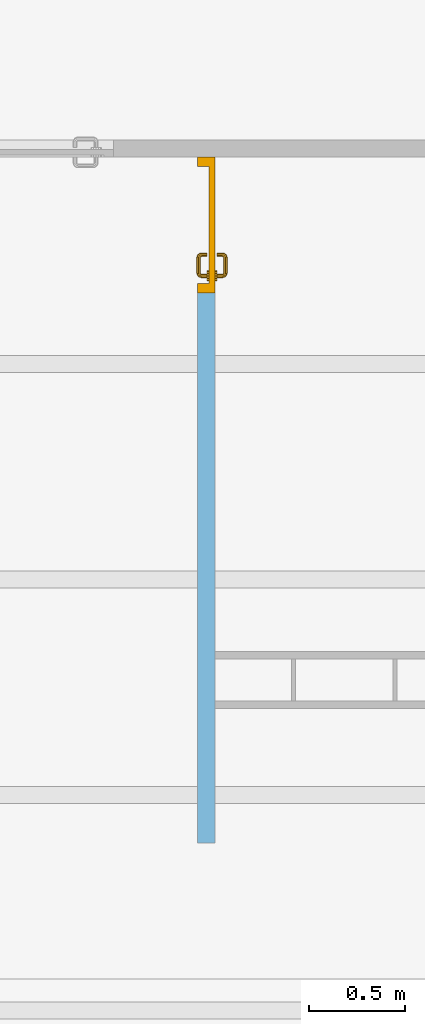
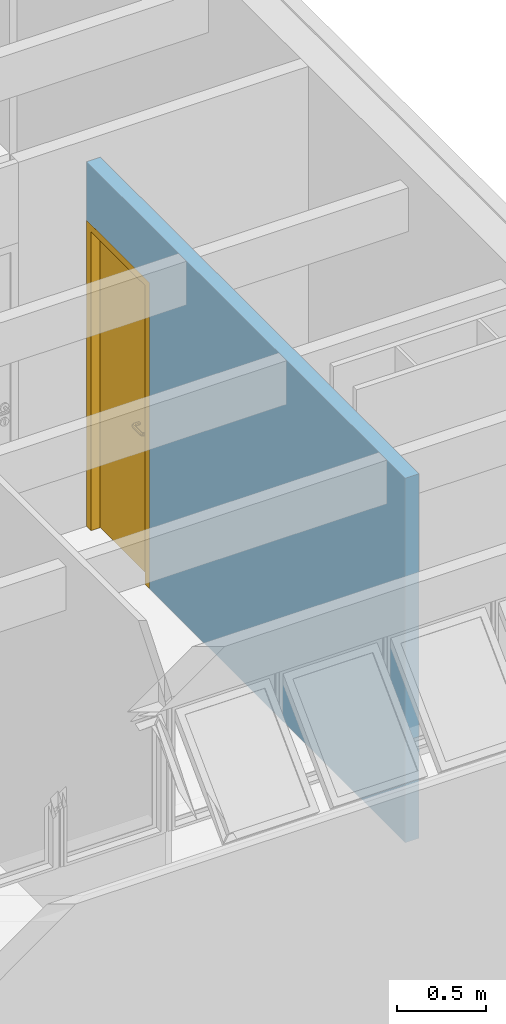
# One storey, part 14 of 22: 1 door, 1 opening, plus 1 element that does not belong to this part.
"""IFC2X3 building model written with IfcOpenShell, lengths in millimetres."""

from ifc_helpers import new_model, si_unit, direction, frame, frame_2d, origin_with_axes, place, context, subcontext, project, spatial, polyline, rectangle, outline, extrude, open_shell, faceted_brep, surface_model, source, transform, mapped, material, layer, layer_set, layer_usage, type_object, type_shapes, element, fill, save


model = new_model("IFC2X3")

# Units and contexts
model_context = context("Model", 3, precision=1e-05, world=origin_with_axes(), true_north=direction((0.0, 1.0)))
body_context = subcontext(model_context, "Body", "Model", "MODEL_VIEW")
ifc_project = project(units=[si_unit("LENGTHUNIT", "METRE", prefix="MILLI"), si_unit("AREAUNIT", "SQUARE_METRE"), si_unit("VOLUMEUNIT", "CUBIC_METRE"), si_unit("PLANEANGLEUNIT", "RADIAN"), si_unit("TIMEUNIT", "SECOND"), si_unit("MASSUNIT", "GRAM")], contexts=[model_context])

# Site, building, storey
site_placement = place(None, origin_with_axes())
site = spatial("IfcSite", under=ifc_project, at=site_placement, Name="Site", CompositionType="ELEMENT")
building_placement = place(site_placement, origin_with_axes())
building = spatial("IfcBuilding", under=site, at=building_placement, Name="Construção", CompositionType="COMPLEX")
storey_placement = place(building_placement, frame((0.0, 0.0, 2650.0), z_axis=(0.0, 0.0, 1.0), x_axis=(1.0, 0.0, 0.0)))
storey = spatial("IfcBuildingStorey", under=building, at=storey_placement, Name="Segundo Pavimento", CompositionType="COMPLEX", Elevation=2650.0)

# Wall, opening, door
ifc_material = material(Name="GENÉRICO - VEDAÇÃO EXTERNA")
ifc_layer = layer(ifc_material, 90.0)
ifc_layer_set = layer_set([ifc_layer], Name="GENÉRICO - VEDAÇÃO EXTERNA 90")
ifc_layer_usage = layer_usage(ifc_layer_set, "AXIS2", "POSITIVE", 0.0)
wall_type = type_object("IfcWallType", Name="GENÉRICO - VEDAÇÃO EXTERNA 90", PredefinedType="STANDARD", material=ifc_layer_set)
wall_placement = place(storey_placement, frame((13040.0, 22394.7804333, 0.0), z_axis=(0.0, 0.0, 1.0), x_axis=(0.0, -1.0, 0.0)))
wall = element("IfcWallStandardCase", 1, at=wall_placement, inside=storey, type_object=wall_type, material=ifc_layer_usage, Name="APTO8-PAREDE-012", context=body_context, shape_type="SweptSolid", body=[
    extrude(rectangle(XDim=3580.0, YDim=90.0, at=frame_2d((0.0, 0.0), x_axis=(-1.0, 0.0))), frame((1790.0, 45.0, 0.0), z_axis=(0.0, 0.0, 1.0), x_axis=(1.0, 0.0, 0.0)), (0.0, 0.0, 1.0), 2500.0),
])
opening_placement = place(wall_placement, frame((710.0, 90.0, 0.0), z_axis=(0.0, 0.0, 1.0), x_axis=(-1.0, 0.0, 0.0)))
opening = element("IfcOpeningElement", 2, at=opening_placement, cuts=wall, ObjectType="Opening", context=body_context, shape_type="SweptSolid", body=[
    extrude(outline(polyline([(355.0, 1050.0), (355.0, -1050.0), (-355.0, -1050.0), (-355.0, 1050.0), (355.0, 1050.0)])), frame((355.0, 0.0, 1050.0), z_axis=(0.0, 1.0, 0.0), x_axis=(1.0, 0.0, 0.0)), (0.0, 0.0, 1.0), 270.0),
])
door_style = type_object("IfcDoorStyle", Name="Porta 25", ConstructionType="NOTDEFINED", OperationType="SINGLE_SWING_LEFT", ParameterTakesPrecedence=False, Sizeable=False)
shared_shape_1 = source(origin_with_axes(), body_context, "Body", "SolidModel", [
    extrude(outline(polyline([(10.0, -10.0), (10.0, -40.0), (-30.0, -40.0), (-30.0, 50.0), (20.0, 50.0), (20.0, -10.0), (10.0, -10.0)])), frame((30.0, 0.0, -40.0), z_axis=(0.0, 1.0, 0.0), x_axis=(1.0, 0.0, 0.0)), (0.0, 0.0, 1.0), 2050.0),
])
shared_shape_2 = source(origin_with_axes(), body_context, "Body", "SolidModel", [
    extrude(outline(polyline([(-10.0, -10.0), (-20.0, -10.0), (-20.0, 50.0), (30.0, 50.0), (30.0, -40.0), (-10.0, -40.0), (-10.0, -10.0)])), frame((680.0, 0.0, -40.0), z_axis=(0.0, 1.0, 0.0), x_axis=(1.0, 0.0, 0.0)), (0.0, 0.0, 1.0), 2050.0),
])
shared_shape_3 = source(origin_with_axes(), body_context, "Body", "SolidModel", [
    faceted_brep([(670.0, 2050.0, -30.0), (670.0, 2060.0, -30.0), (39.99999999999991, 2060.0, -29.99999999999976), (39.99999999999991, 2050.0, -29.99999999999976), (710.0, 2050.0, -90.0), (0.0, 2050.0, -90.0), (0.0, 2100.0, -90.0), (710.0, 2100.0, -90.0), (39.99999999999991, 2050.0, 0.0), (39.99999999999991, 2060.0, 0.0), (0.0, 2050.0, 0.0), (0.0, 2100.0, 0.0), (710.0, 2100.0, 0.0), (710.0, 2050.0, 0.0), (670.0, 2050.0, 0.0), (670.0, 2060.0, 0.0)], [[[0, 1, 2, 3]], [[4, 5, 6, 7]], [[8, 3, 2, 9]], [[10, 11, 6, 5]], [[11, 12, 7, 6]], [[12, 13, 4, 7]], [[0, 3, 8, 10, 5, 4, 13, 14]], [[15, 1, 0, 14]], [[9, 2, 1, 15]], [[9, 15, 14, 13, 12, 11, 10, 8]]]),
])
shared_shape_4 = source(origin_with_axes(), body_context, "Body", "SolidModel", [
    extrude(outline(polyline([(0.0, 27.00000000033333), (13.49999999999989, 23.38268590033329), (23.38268590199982, 13.50000000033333), (26.99999999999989, 3.333298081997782e-10), (23.38268590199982, -13.49999999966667), (13.49999999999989, -23.38268590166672), (0.0, -26.99999999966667), (-13.50000000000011, -23.38268590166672), (-23.38268590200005, -13.49999999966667), (-27.0, 3.333298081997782e-10), (-23.38268590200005, 13.50000000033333), (-13.50000000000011, 23.38268590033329), (0.0, 27.00000000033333)])), frame((90.0, 999.9999999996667, -40.0), z_axis=(0.0, 0.0, 1.0), x_axis=(1.0, 0.0, 0.0)), (0.0, 0.0, 1.0), 10.0),
])
shared_shape_5 = source(origin_with_axes(), body_context, "Body", "SolidModel", [
    faceted_brep([(67.48333950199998, 913.0, -39.0), (67.48333950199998, 913.0, -30.0), (64.0, 900.0, -30.0), (64.0, 900.0, -39.0), (67.48333950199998, 887.0, -30.0), (67.48333950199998, 887.0, -39.0), (63.0, 900.0, -30.0), (63.0, 900.0, -40.0), (66.61731409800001, 886.5, -40.0), (66.61731409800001, 886.5, -30.0), (66.61731409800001, 913.5, -30.0), (66.61731409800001, 913.5, -40.0), (77.0, 877.483339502, -30.0), (77.0, 877.483339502, -39.0), (90.0, 874.0, -30.0), (90.0, 874.0, -39.0), (76.5, 876.617314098, -40.0), (76.5, 876.617314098, -30.0), (77.0, 922.516660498, -39.0), (77.0, 922.516660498, -30.0), (103.0, 877.483339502, -39.0), (103.0, 877.483339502, -30.0), (112.516660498, 887.0, -30.0), (112.516660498, 887.0, -39.0), (90.0, 873.0, -40.0), (90.0, 873.0, -30.0), (112.516660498, 913.0, -30.0), (116.0, 900.0, -30.0), (90.0, 926.0, -30.0), (103.0, 922.516660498, -30.0), (117.0, 900.0, -30.0), (113.382685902, 913.5, -30.0), (103.5, 923.382685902, -30.0), (90.0, 927.0, -30.0), (76.5, 923.382685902, -30.0), (103.5, 876.617314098, -30.0), (113.382685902, 886.5, -30.0), (116.0, 900.0, -39.0), (112.516660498, 913.0, -39.0), (113.382685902, 886.5, -40.0), (117.0, 900.0, -40.0), (103.5, 876.617314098, -40.0), (82.53216922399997, 909.692280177, -40.0), (82.53216922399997, 909.692280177, -39.0), (85.0, 904.4, -39.0), (85.0, 904.4, -40.0), (85.0, 887.5, -39.0), (85.0, 887.5, -40.0), (86.46446609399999, 883.964466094, -40.0), (86.46446609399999, 883.964466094, -39.0), (90.0, 882.5, -40.0), (90.0, 882.5, -39.0), (76.5, 923.382685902, -40.0), (90.0, 926.0, -39.0), (90.0, 927.0, -40.0), (103.0, 922.516660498, -39.0), (113.382685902, 913.5, -40.0), (103.5, 923.382685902, -40.0), (95.0, 887.5, -40.0), (93.53553390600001, 883.964466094, -40.0), (93.53553390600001, 883.964466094, -39.0), (95.0, 887.5, -39.0), (84.62481768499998, 915.143815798, -40.0), (84.62481768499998, 915.143815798, -39.0), (83.279754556, 911.639806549, -39.0), (83.279754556, 911.639806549, -40.0), (90.0, 917.425445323, -40.0), (90.0, 917.425445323, -39.0), (95.37518231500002, 915.143815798, -40.0), (95.37518231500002, 915.143815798, -39.0), (96.720245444, 911.639806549, -39.0), (97.46783077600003, 909.692280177, -39.0), (95.0, 904.4, -39.0), (95.0, 904.4, -40.0), (97.46783077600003, 909.692280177, -40.0), (96.720245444, 911.639806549, -40.0)], [[[0, 1, 2, 3]], [[3, 2, 4, 5]], [[6, 7, 8, 9]], [[10, 11, 7, 6]], [[5, 4, 12, 13]], [[13, 12, 14, 15]], [[9, 8, 16, 17]], [[18, 19, 1, 0]], [[20, 21, 22, 23]], [[17, 16, 24, 25]], [[26, 27, 22, 21, 14, 12, 4, 2, 1, 19, 28, 29], [30, 31, 32, 33, 34, 10, 6, 9, 17, 25, 35, 36]], [[15, 14, 21, 20]], [[37, 27, 26, 38]], [[36, 39, 40, 30]], [[25, 24, 41, 35]], [[35, 41, 39, 36]], [[23, 22, 27, 37]], [[42, 43, 44, 45]], [[44, 46, 47, 45]], [[48, 47, 46, 49]], [[50, 48, 49, 51]], [[34, 52, 11, 10]], [[53, 28, 19, 18]], [[33, 54, 52, 34]], [[55, 29, 28, 53]], [[38, 26, 29, 55]], [[31, 56, 57, 32]], [[58, 59, 60, 61]], [[59, 50, 51, 60]], [[32, 57, 54, 33]], [[30, 40, 56, 31]], [[62, 63, 64, 43, 42, 65]], [[66, 67, 63, 62]], [[68, 69, 67, 66]], [[55, 53, 18, 0, 3, 5, 13, 15, 20, 23, 37, 38], [69, 70, 71, 72, 61, 60, 51, 49, 46, 44, 43, 64, 63, 67]], [[73, 72, 71, 74]], [[73, 58, 61, 72]], [[74, 71, 70, 69, 68, 75]], [[57, 56, 40, 39, 41, 24, 16, 8, 7, 11, 52, 54], [74, 75, 68, 66, 62, 65, 42, 45, 47, 48, 50, 59, 58, 73]]], outer=[[True], [True], [True], [True], [True], [True], [True], [True], [True], [True], [False, True], [True], [True], [True], [True], [True], [True], [True], [True], [True], [True], [True], [True], [True], [True], [True], [True], [True], [True], [True], [True], [True], [True], [True], [True, False], [True], [True], [True], [True, False]]),
])
shared_shape_6 = source(origin_with_axes(), body_context, "Body", "SurfaceModel", [
    surface_model("IfcShellBasedSurfaceModel", [(198.858192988, 990.0, -75.74025148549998), (200.0, 990.0, -70.0), (192.928932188, 992.928932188, -69.303560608), (192.197392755, 992.928932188, -72.9812576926), (198.858192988, 1010.0, -75.74025148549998), (200.0, 1010.0, -70.0), (207.071067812, 1007.07106781, -70.696439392), (205.518993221, 1007.07106781, -78.49924527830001), (200.0, 990.0, -40.0), (192.928932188, 992.928932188, -40.0), (190.0, 1000.0, -40.0), (190.0, 1000.0, -69.0150859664), (192.928932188, 1007.07106781, -40.0), (192.928932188, 1007.07106781, -69.303560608), (200.0, 1010.0, -40.0), (207.071067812, 1007.07106781, -40.0), (207.071067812, 992.928932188, -70.696439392), (207.071067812, 992.928932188, -40.0), (210.0, 1000.0, -40.0), (210.0, 1000.0, -70.9849140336), (205.518993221, 992.928932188, -78.49924527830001), (208.277987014, 1000.0, -79.6420579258), (189.438398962, 1000.0, -71.83844504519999), (192.197392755, 1007.07106781, -72.9812576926), (195.606601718, 990.0, -80.6066017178), (190.508645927, 992.928932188, -75.5086459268), (195.606601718, 1010.0, -80.6066017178), (200.704557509, 1007.07106781, -85.70455750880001), (190.508645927, 1007.07106781, -75.5086459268), (187.981257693, 1007.07106781, -77.19739275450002), (190.740251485, 1010.0, -83.8581929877), (188.397003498, 1000.0, -73.39700349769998), (186.838445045, 1000.0, -74.43839896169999), (184.015085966, 1000.0, -75.0), (184.303560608, 1007.07106781, -77.92893218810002), (187.981257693, 992.928932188, -77.19739275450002), (200.704557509, 992.928932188, -85.70455750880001), (202.816199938, 1000.0, -87.8161999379), (194.642057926, 1000.0, -93.2779870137), (193.499245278, 992.928932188, -90.51899322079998), (193.499245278, 1007.07106781, -90.51899322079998), (185.0, 1010.0, -85.0), (185.696439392, 1007.07106781, -92.07106781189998), (184.303560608, 992.928932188, -77.92893218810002), (190.740251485, 990.0, -83.8581929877), (105.984914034, 1000.0, -75.0), (105.696439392, 1007.07106781, -77.92893218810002), (105.0, 1010.0, -85.0), (103.161554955, 1000.0, -74.43839896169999), (102.018742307, 1007.07106781, -77.19739275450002), (105.696439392, 992.928932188, -77.92893218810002), (185.0, 990.0, -85.0), (102.018742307, 992.928932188, -77.19739275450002), (105.0, 990.0, -85.0), (185.696439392, 992.928932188, -92.07106781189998), (185.984914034, 1000.0, -95.0), (99.25974851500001, 990.0, -83.8581929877), (99.491354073, 1007.07106781, -75.5086459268), (99.25974851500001, 1010.0, -83.8581929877), (94.39339828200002, 1010.0, -80.6066017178), (96.50075472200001, 1007.07106781, -90.51899322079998), (89.29544249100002, 1007.07106781, -85.70455750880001), (104.303560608, 1007.07106781, -92.07106781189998), (101.602996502, 1000.0, -73.39700349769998), (104.303560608, 992.928932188, -92.07106781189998), (100.561601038, 1000.0, -71.83844504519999), (97.80260724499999, 1007.07106781, -72.9812576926), (99.491354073, 992.928932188, -75.5086459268), (104.015085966, 1000.0, -95.0), (97.80260724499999, 992.928932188, -72.9812576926), (94.39339828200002, 990.0, -80.6066017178), (96.50075472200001, 992.928932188, -90.51899322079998), (95.357942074, 1000.0, -93.2779870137), (91.14180701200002, 1010.0, -75.74025148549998), (100.0, 1000.0, -69.0150859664), (97.07106781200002, 1007.07106781, -69.303560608), (87.18380006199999, 1000.0, -87.8161999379), (97.07106781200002, 1007.07106781, -40.0), (90.0, 1010.0, -70.0), (90.0, 1010.0, -40.0), (100.0, 1000.0, -40.0), (97.07106781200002, 992.928932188, -69.303560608), (97.07106781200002, 992.928932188, -40.0), (90.0, 990.0, -40.0), (90.0, 990.0, -70.0), (91.14180701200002, 990.0, -75.74025148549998), (89.29544249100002, 992.928932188, -85.70455750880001), (84.48100677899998, 992.928932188, -78.49924527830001), (82.92893218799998, 992.928932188, -70.696439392), (81.72201298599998, 1000.0, -79.6420579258), (84.48100677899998, 1007.07106781, -78.49924527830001), (82.92893218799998, 1007.07106781, -70.696439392), (80.0, 1000.0, -70.9849140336), (82.92893218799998, 1007.07106781, -40.0), (82.92893218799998, 992.928932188, -40.0), (80.0, 1000.0, -40.0)], [open_shell([[[0, 1, 2, 3]], [[4, 5, 6, 7]], [[1, 8, 9, 2]], [[2, 9, 10, 11]], [[11, 10, 12, 13]], [[13, 12, 14, 5]], [[5, 14, 15, 6]], [[16, 17, 8, 1]], [[18, 15, 14, 12, 10, 9, 8, 17]], [[6, 15, 18, 19]], [[19, 18, 17, 16]], [[20, 16, 1, 0]], [[7, 6, 19, 21]], [[22, 11, 13, 23]], [[3, 2, 11, 22]], [[24, 0, 3, 25]], [[26, 4, 7, 27]], [[23, 13, 5, 4]], [[28, 23, 4, 26]], [[29, 28, 26, 30]], [[31, 22, 23, 28]], [[32, 31, 28, 29]], [[25, 3, 22, 31]], [[33, 32, 29, 34]], [[35, 25, 31, 32]], [[36, 20, 0, 24]], [[21, 19, 16, 20]], [[37, 21, 20, 36]], [[38, 37, 36, 39]], [[27, 7, 21, 37]], [[40, 27, 37, 38]], [[30, 26, 27, 40]], [[34, 29, 30, 41]], [[41, 30, 40, 42]], [[43, 35, 32, 33]], [[44, 24, 25, 35]], [[45, 33, 34, 46]], [[46, 34, 41, 47]], [[48, 45, 46, 49]], [[50, 43, 33, 45]], [[51, 44, 35, 43]], [[39, 36, 24, 44]], [[52, 50, 45, 48]], [[53, 51, 43, 50]], [[54, 39, 44, 51]], [[42, 40, 38, 55]], [[56, 53, 50, 52]], [[57, 49, 58, 59]], [[59, 58, 60, 61]], [[47, 41, 42, 62]], [[49, 46, 47, 58]], [[63, 48, 49, 57]], [[64, 54, 51, 53]], [[55, 38, 39, 54]], [[65, 63, 57, 66]], [[67, 52, 48, 63]], [[62, 42, 55, 68]], [[58, 47, 62, 60]], [[69, 67, 63, 65]], [[70, 56, 52, 67]], [[71, 64, 53, 56]], [[68, 55, 54, 64]], [[60, 62, 68, 72]], [[66, 57, 59, 73]], [[74, 65, 66, 75]], [[72, 68, 64, 71]], [[61, 60, 72, 76]], [[77, 75, 78, 79]], [[80, 74, 75, 77]], [[81, 69, 65, 74]], [[82, 81, 74, 80]], [[83, 84, 81, 82]], [[85, 70, 67, 69]], [[86, 71, 56, 70]], [[76, 72, 71, 86]], [[84, 85, 69, 81]], [[87, 86, 70, 85]], [[88, 87, 85, 84]], [[89, 76, 86, 87]], [[73, 59, 61, 90]], [[75, 66, 73, 78]], [[90, 61, 76, 89]], [[78, 73, 90, 91]], [[91, 90, 89, 92]], [[79, 78, 91, 93]], [[94, 88, 84, 83]], [[92, 89, 87, 88]], [[93, 91, 92, 95]], [[95, 92, 88, 94]]])]),
])
shared_shape_7 = source(origin_with_axes(), body_context, "Body", "SolidModel", [
    extrude(outline(polyline([(0.0, 27.00000000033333), (13.49999999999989, 23.38268590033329), (23.38268590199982, 13.50000000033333), (26.99999999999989, 3.333298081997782e-10), (23.38268590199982, -13.49999999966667), (13.49999999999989, -23.38268590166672), (0.0, -26.99999999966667), (-13.50000000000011, -23.38268590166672), (-23.38268590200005, -13.49999999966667), (-27.0, 3.333298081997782e-10), (-23.38268590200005, 13.50000000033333), (-13.50000000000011, 23.38268590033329), (0.0, 27.00000000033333)])), frame((90.0, 999.9999999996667, 0.0), z_axis=(0.0, 0.0, 1.0), x_axis=(1.0, 0.0, 0.0)), (0.0, 0.0, 1.0), 10.0),
])
shared_shape_8 = source(origin_with_axes(), body_context, "Body", "SolidModel", [
    faceted_brep([(86.46446609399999, 883.964466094, 9.0), (85.0, 887.5, 9.0), (85.0, 887.5, 10.0), (86.46446609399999, 883.964466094, 10.0), (90.0, 882.5, 9.0), (90.0, 882.5, 10.0), (76.5, 923.382685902, 10.0), (76.5, 923.382685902, 0.0), (66.61731409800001, 913.5, 0.0), (66.61731409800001, 913.5, 10.0), (90.0, 927.0, 10.0), (90.0, 927.0, 0.0), (76.5, 876.617314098, 10.0), (76.5, 876.617314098, 0.0), (90.0, 873.0, 0.0), (90.0, 873.0, 10.0), (103.5, 876.617314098, 0.0), (103.5, 876.617314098, 10.0), (113.382685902, 886.5, 0.0), (113.382685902, 886.5, 10.0), (117.0, 900.0, 0.0), (117.0, 900.0, 10.0), (113.382685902, 913.5, 0.0), (113.382685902, 913.5, 10.0), (103.5, 923.382685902, 10.0), (103.5, 923.382685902, 0.0), (66.61731409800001, 886.5, 10.0), (66.61731409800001, 886.5, 0.0), (63.0, 900.0, 10.0), (63.0, 900.0, 0.0), (64.0, 900.0, 9.0), (67.48333950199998, 887.0, 9.0), (67.48333950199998, 887.0, 0.0), (64.0, 900.0, 0.0), (67.48333950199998, 913.0, 9.0), (67.48333950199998, 913.0, 0.0), (77.0, 922.516660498, 9.0), (77.0, 922.516660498, 0.0), (116.0, 900.0, 0.0), (112.516660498, 913.0, 0.0), (103.0, 922.516660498, 0.0), (90.0, 926.0, 0.0), (77.0, 877.483339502, 0.0), (90.0, 874.0, 0.0), (103.0, 877.483339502, 0.0), (112.516660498, 887.0, 0.0), (77.0, 877.483339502, 9.0), (90.0, 874.0, 9.0), (103.0, 877.483339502, 9.0), (112.516660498, 887.0, 9.0), (90.0, 926.0, 9.0), (103.0, 922.516660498, 9.0), (85.0, 904.4, 10.0), (85.0, 904.4, 9.0), (82.53216922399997, 909.692280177, 9.0), (82.53216922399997, 909.692280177, 10.0), (116.0, 900.0, 9.0), (93.53553390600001, 883.964466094, 9.0), (93.53553390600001, 883.964466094, 10.0), (112.516660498, 913.0, 9.0), (84.62481768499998, 915.143815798, 9.0), (84.62481768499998, 915.143815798, 10.0), (83.279754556, 911.639806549, 10.0), (83.279754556, 911.639806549, 9.0), (90.0, 917.425445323, 9.0), (90.0, 917.425445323, 10.0), (95.37518231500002, 915.143815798, 10.0), (96.720245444, 911.639806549, 10.0), (97.46783077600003, 909.692280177, 10.0), (95.0, 904.4, 10.0), (95.0, 887.5, 10.0), (95.37518231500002, 915.143815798, 9.0), (95.0, 887.5, 9.0), (95.0, 904.4, 9.0), (97.46783077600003, 909.692280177, 9.0), (96.720245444, 911.639806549, 9.0)], [[[0, 1, 2, 3]], [[4, 0, 3, 5]], [[6, 7, 8, 9]], [[10, 11, 7, 6]], [[12, 13, 14, 15]], [[15, 14, 16, 17]], [[17, 16, 18, 19]], [[19, 18, 20, 21]], [[21, 20, 22, 23]], [[24, 25, 11, 10]], [[23, 22, 25, 24]], [[26, 27, 13, 12]], [[28, 29, 27, 26]], [[9, 8, 29, 28]], [[30, 31, 32, 33]], [[34, 30, 33, 35]], [[36, 34, 35, 37]], [[18, 16, 14, 13, 27, 29, 8, 7, 11, 25, 22, 20], [38, 39, 40, 41, 37, 35, 33, 32, 42, 43, 44, 45]], [[31, 46, 42, 32]], [[46, 47, 43, 42]], [[47, 48, 44, 43]], [[48, 49, 45, 44]], [[50, 36, 37, 41]], [[51, 50, 41, 40]], [[52, 2, 1, 53]], [[54, 55, 52, 53]], [[49, 56, 38, 45]], [[57, 4, 5, 58]], [[56, 59, 39, 38]], [[59, 51, 40, 39]], [[60, 61, 62, 55, 54, 63]], [[64, 65, 61, 60]], [[23, 24, 10, 6, 9, 28, 26, 12, 15, 17, 19, 21], [66, 67, 68, 69, 70, 58, 5, 3, 2, 52, 55, 62, 61, 65]], [[71, 66, 65, 64]], [[72, 57, 58, 70]], [[73, 69, 68, 74]], [[73, 72, 70, 69]], [[74, 68, 67, 66, 71, 75]], [[50, 51, 59, 56, 49, 48, 47, 46, 31, 30, 34, 36], [74, 75, 71, 64, 60, 63, 54, 53, 1, 0, 4, 57, 72, 73]]]),
])
shared_shape_9 = source(origin_with_axes(), body_context, "Body", "SurfaceModel", [
    surface_model("IfcShellBasedSurfaceModel", [(200.0, 990.0, 40.0), (192.928932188, 992.928932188, 39.303560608), (192.928932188, 992.928932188, 10.0), (200.0, 990.0, 10.0), (190.0, 1000.0, 39.0150859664), (190.0, 1000.0, 10.0), (192.197392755, 992.928932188, 42.9812576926), (189.438398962, 1000.0, 41.8384450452), (192.928932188, 1007.07106781, 39.303560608), (192.928932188, 1007.07106781, 10.0), (192.197392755, 1007.07106781, 42.9812576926), (200.0, 1010.0, 40.0), (200.0, 1010.0, 10.0), (198.858192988, 1010.0, 45.7402514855), (207.071067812, 1007.07106781, 40.696439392), (207.071067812, 1007.07106781, 10.0), (205.518993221, 1007.07106781, 48.4992452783), (210.0, 1000.0, 40.9849140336), (210.0, 1000.0, 10.0), (207.071067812, 992.928932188, 10.0), (190.508645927, 1007.07106781, 45.5086459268), (195.606601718, 1010.0, 50.6066017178), (188.397003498, 1000.0, 43.3970034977), (187.981257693, 1007.07106781, 47.1973927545), (190.740251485, 1010.0, 53.8581929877), (190.508645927, 992.928932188, 45.5086459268), (186.838445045, 1000.0, 44.4383989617), (207.071067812, 992.928932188, 40.696439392), (198.858192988, 990.0, 45.7402514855), (200.704557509, 1007.07106781, 55.7045575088), (208.277987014, 1000.0, 49.6420579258), (205.518993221, 992.928932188, 48.4992452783), (200.704557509, 992.928932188, 55.7045575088), (195.606601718, 990.0, 50.6066017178), (193.499245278, 1007.07106781, 60.5189932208), (202.816199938, 1000.0, 57.8161999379), (194.642057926, 1000.0, 63.2779870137), (185.696439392, 1007.07106781, 62.0710678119), (185.984914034, 1000.0, 65.0), (193.499245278, 992.928932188, 60.5189932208), (185.0, 1010.0, 55.0), (184.303560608, 1007.07106781, 47.9289321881), (105.0, 1010.0, 55.0), (104.303560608, 1007.07106781, 62.0710678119), (105.696439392, 1007.07106781, 47.9289321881), (187.981257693, 992.928932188, 47.1973927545), (184.015085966, 1000.0, 45.0), (105.696439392, 992.928932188, 47.9289321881), (105.984914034, 1000.0, 45.0), (184.303560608, 992.928932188, 47.9289321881), (190.740251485, 990.0, 53.8581929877), (102.018742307, 1007.07106781, 47.1973927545), (99.25974851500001, 1010.0, 53.8581929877), (103.161554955, 1000.0, 44.4383989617), (102.018742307, 992.928932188, 47.1973927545), (101.602996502, 1000.0, 43.3970034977), (99.491354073, 1007.07106781, 45.5086459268), (185.0, 990.0, 55.0), (185.696439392, 992.928932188, 62.0710678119), (105.0, 990.0, 55.0), (94.39339828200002, 1010.0, 50.6066017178), (104.303560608, 992.928932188, 62.0710678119), (99.25974851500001, 990.0, 53.8581929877), (104.015085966, 1000.0, 65.0), (96.50075472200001, 1007.07106781, 60.5189932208), (95.357942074, 1000.0, 63.2779870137), (96.50075472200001, 992.928932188, 60.5189932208), (89.29544249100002, 992.928932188, 55.7045575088), (94.39339828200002, 990.0, 50.6066017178), (87.18380006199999, 1000.0, 57.8161999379), (89.29544249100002, 1007.07106781, 55.7045575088), (81.72201298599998, 1000.0, 49.6420579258), (84.48100677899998, 992.928932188, 48.4992452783), (84.48100677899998, 1007.07106781, 48.4992452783), (97.80260724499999, 1007.07106781, 42.9812576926), (91.14180701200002, 1010.0, 45.7402514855), (97.07106781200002, 1007.07106781, 39.303560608), (90.0, 1010.0, 40.0), (97.07106781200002, 1007.07106781, 10.0), (90.0, 1010.0, 10.0), (82.92893218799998, 1007.07106781, 40.696439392), (91.14180701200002, 990.0, 45.7402514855), (99.491354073, 992.928932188, 45.5086459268), (97.80260724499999, 992.928932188, 42.9812576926), (100.561601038, 1000.0, 41.8384450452), (100.0, 1000.0, 39.0150859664), (97.07106781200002, 992.928932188, 39.303560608), (100.0, 1000.0, 10.0), (90.0, 990.0, 40.0), (97.07106781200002, 992.928932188, 10.0), (82.92893218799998, 992.928932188, 40.696439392), (90.0, 990.0, 10.0), (82.92893218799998, 1007.07106781, 10.0), (80.0, 1000.0, 40.9849140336), (80.0, 1000.0, 10.0), (82.92893218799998, 992.928932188, 10.0)], [open_shell([[[0, 1, 2, 3]], [[1, 4, 5, 2]], [[6, 7, 4, 1]], [[4, 8, 9, 5]], [[7, 10, 8, 4]], [[8, 11, 12, 9]], [[10, 13, 11, 8]], [[11, 14, 15, 12]], [[13, 16, 14, 11]], [[14, 17, 18, 15]], [[18, 19, 3, 2, 5, 9, 12, 15]], [[20, 21, 13, 10]], [[22, 20, 10, 7]], [[23, 24, 21, 20]], [[25, 22, 7, 6]], [[26, 23, 20, 22]], [[27, 0, 3, 19]], [[28, 6, 1, 0]], [[21, 29, 16, 13]], [[16, 30, 17, 14]], [[17, 27, 19, 18]], [[31, 28, 0, 27]], [[30, 31, 27, 17]], [[32, 33, 28, 31]], [[24, 34, 29, 21]], [[29, 35, 30, 16]], [[34, 36, 35, 29]], [[35, 32, 31, 30]], [[37, 38, 36, 34]], [[36, 39, 32, 35]], [[40, 37, 34, 24]], [[41, 40, 24, 23]], [[42, 43, 37, 40]], [[44, 42, 40, 41]], [[33, 25, 6, 28]], [[45, 26, 22, 25]], [[46, 41, 23, 26]], [[47, 48, 46, 49]], [[50, 45, 25, 33]], [[49, 46, 26, 45]], [[48, 44, 41, 46]], [[51, 52, 42, 44]], [[53, 51, 44, 48]], [[54, 53, 48, 47]], [[55, 56, 51, 53]], [[39, 50, 33, 32]], [[57, 49, 45, 50]], [[58, 57, 50, 39]], [[59, 47, 49, 57]], [[56, 60, 52, 51]], [[38, 58, 39, 36]], [[61, 59, 57, 58]], [[62, 54, 47, 59]], [[63, 61, 58, 38]], [[52, 64, 43, 42]], [[43, 63, 38, 37]], [[64, 65, 63, 43]], [[66, 62, 59, 61]], [[65, 66, 61, 63]], [[67, 68, 62, 66]], [[69, 67, 66, 65]], [[70, 69, 65, 64]], [[71, 72, 67, 69]], [[60, 70, 64, 52]], [[73, 71, 69, 70]], [[74, 75, 60, 56]], [[76, 77, 75, 74]], [[75, 73, 70, 60]], [[78, 79, 77, 76]], [[77, 80, 73, 75]], [[72, 81, 68, 67]], [[68, 82, 54, 62]], [[81, 83, 82, 68]], [[82, 55, 53, 54]], [[84, 74, 56, 55]], [[83, 84, 55, 82]], [[85, 76, 74, 84]], [[86, 85, 84, 83]], [[87, 78, 76, 85]], [[88, 86, 83, 81]], [[89, 87, 85, 86]], [[90, 88, 81, 72]], [[91, 89, 86, 88]], [[79, 92, 80, 77]], [[80, 93, 71, 73]], [[92, 94, 93, 80]], [[93, 90, 72, 71]], [[95, 91, 88, 90]], [[94, 95, 90, 93]]])]),
])
shared_shape_10 = source(origin_with_axes(), body_context, "Body", "SolidModel", [
    extrude(rectangle(XDim=2060.0, YDim=630.0, at=frame_2d((0.0, 0.0), x_axis=(0.0, 1.0))), frame((355.0, 1030.0, -30.0), z_axis=(0.0, 0.0, 1.0), x_axis=(1.0, 0.0, 0.0)), (0.0, 0.0, 1.0), 30.0),
])
shared_shape_11 = source(origin_with_axes(), body_context, "Body", "MappedRepresentation", [
    mapped(shared_shape_1, transform((0.0, 0.0, 0.0))),
    mapped(shared_shape_2, transform((0.0, 0.0, 0.0))),
    mapped(shared_shape_3, transform((0.0, 0.0, 0.0))),
    mapped(shared_shape_4, transform((0.0, 0.0, 0.0))),
    mapped(shared_shape_5, transform((0.0, 0.0, 0.0))),
    mapped(shared_shape_6, transform((0.0, 0.0, 0.0))),
    mapped(shared_shape_7, transform((0.0, 0.0, 0.0))),
    mapped(shared_shape_8, transform((0.0, 0.0, 0.0))),
    mapped(shared_shape_9, transform((0.0, 0.0, 0.0))),
    mapped(shared_shape_10, transform((0.0, 0.0, 0.0))),
])
type_shapes(door_style, [shared_shape_11])
door_placement = place(opening_placement, origin_with_axes())
door = element("IfcDoor", 3, at=door_placement, inside=storey, type_object=door_style, Name="APTO8-PORTA-003", OverallHeight=2100.0, OverallWidth=710.0, context=body_context, shape_type="MappedRepresentation", body=[
    mapped(shared_shape_11, transform((0.0, 0.0, 0.0), x_axis=(1.0, 0.0, 0.0), y_axis=(0.0, 0.0, 1.0), z_axis=(0.0, -1.0, 0.0), scale=1.0)),
])
fill(opening, door)

save(model, "model.ifc")
